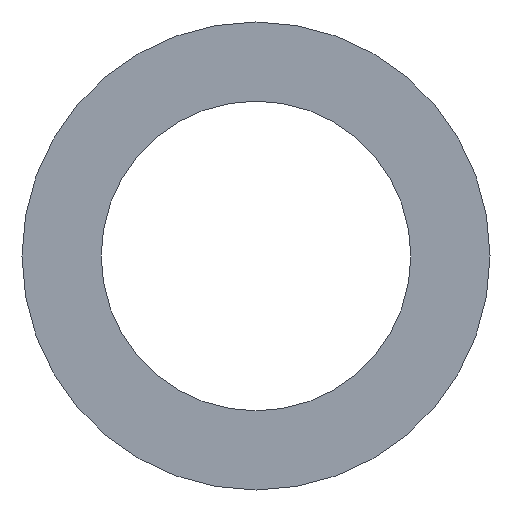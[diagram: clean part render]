
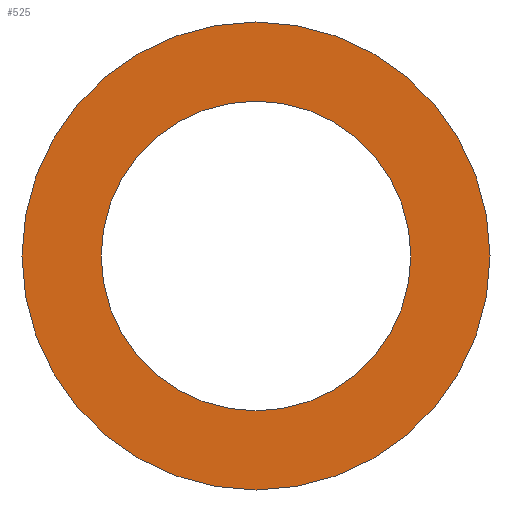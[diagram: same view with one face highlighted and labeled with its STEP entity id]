
A CAD part, left-side view. The second image highlights one B-rep face of the part: STEP entity #525.
In plain terms, the highlighted planar face has unit normal (-1, 0, 0).
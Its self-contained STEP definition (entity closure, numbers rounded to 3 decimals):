
#23 = DIRECTION ( 'NONE',  ( -1., 0., 0. ) ) ;
#28 = EDGE_LOOP ( 'NONE', ( #215, #593 ) ) ;
#32 = EDGE_CURVE ( 'NONE', #669, #60, #620, .T. ) ;
#34 = FACE_OUTER_BOUND ( 'NONE', #77, .T. ) ;
#60 = VERTEX_POINT ( 'NONE', #504 ) ;
#77 = EDGE_LOOP ( 'NONE', ( #627, #535 ) ) ;
#84 = FACE_BOUND ( 'NONE', #28, .T. ) ;
#139 = CARTESIAN_POINT ( 'NONE',  ( -12.7, 0., -5.1 ) ) ;
#152 = DIRECTION ( 'NONE',  ( 1., 0., 0. ) ) ;
#157 = AXIS2_PLACEMENT_3D ( 'NONE', #613, #556, #664 ) ;
#174 = VERTEX_POINT ( 'NONE', #642 ) ;
#204 = CIRCLE ( 'NONE', #260, 5.1 ) ;
#215 = ORIENTED_EDGE ( 'NONE', *, *, #635, .T. ) ;
#218 = DIRECTION ( 'NONE',  ( 1., 0., 0. ) ) ;
#222 = DIRECTION ( 'NONE',  ( 0., 0., -1. ) ) ;
#260 = AXIS2_PLACEMENT_3D ( 'NONE', #611, #263, #354 ) ;
#263 = DIRECTION ( 'NONE',  ( 1., 0., 0. ) ) ;
#302 = VERTEX_POINT ( 'NONE', #356 ) ;
#311 = DIRECTION ( 'NONE',  ( 0., 0., 1. ) ) ;
#354 = DIRECTION ( 'NONE',  ( 0., 0., -1. ) ) ;
#356 = CARTESIAN_POINT ( 'NONE',  ( -12.7, 0., 3.375 ) ) ;
#360 = DIRECTION ( 'NONE',  ( 0., 1., 0. ) ) ;
#415 = CARTESIAN_POINT ( 'NONE',  ( -12.7, 0., 0. ) ) ;
#493 = CIRCLE ( 'NONE', #568, 3.375 ) ;
#504 = CARTESIAN_POINT ( 'NONE',  ( -12.7, 0., 5.1 ) ) ;
#511 = CARTESIAN_POINT ( 'NONE',  ( -12.7, 5.1, 0. ) ) ;
#525 = ADVANCED_FACE ( 'NONE', ( #34, #84 ), #563, .T. ) ;
#528 = CARTESIAN_POINT ( 'NONE',  ( -12.7, 0., 0. ) ) ;
#535 = ORIENTED_EDGE ( 'NONE', *, *, #650, .F. ) ;
#554 = EDGE_CURVE ( 'NONE', #302, #174, #610, .T. ) ;
#556 = DIRECTION ( 'NONE',  ( 1., 0., 0. ) ) ;
#558 = AXIS2_PLACEMENT_3D ( 'NONE', #511, #23, #311 ) ;
#563 = PLANE ( 'NONE',  #558 ) ;
#568 = AXIS2_PLACEMENT_3D ( 'NONE', #415, #152, #360 ) ;
#593 = ORIENTED_EDGE ( 'NONE', *, *, #554, .T. ) ;
#610 = CIRCLE ( 'NONE', #157, 3.375 ) ;
#611 = CARTESIAN_POINT ( 'NONE',  ( -12.7, 0., 0. ) ) ;
#613 = CARTESIAN_POINT ( 'NONE',  ( -12.7, 0., 0. ) ) ;
#620 = CIRCLE ( 'NONE', #676, 5.1 ) ;
#627 = ORIENTED_EDGE ( 'NONE', *, *, #32, .F. ) ;
#635 = EDGE_CURVE ( 'NONE', #174, #302, #493, .T. ) ;
#642 = CARTESIAN_POINT ( 'NONE',  ( -12.7, 0., -3.375 ) ) ;
#650 = EDGE_CURVE ( 'NONE', #60, #669, #204, .T. ) ;
#664 = DIRECTION ( 'NONE',  ( 0., 1., 0. ) ) ;
#669 = VERTEX_POINT ( 'NONE', #139 ) ;
#676 = AXIS2_PLACEMENT_3D ( 'NONE', #528, #218, #222 ) ;
